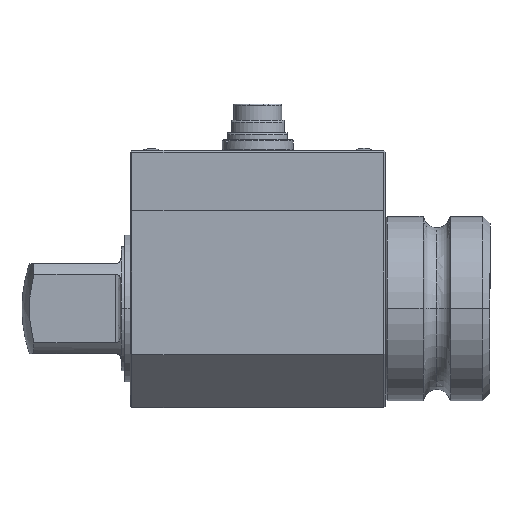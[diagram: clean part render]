
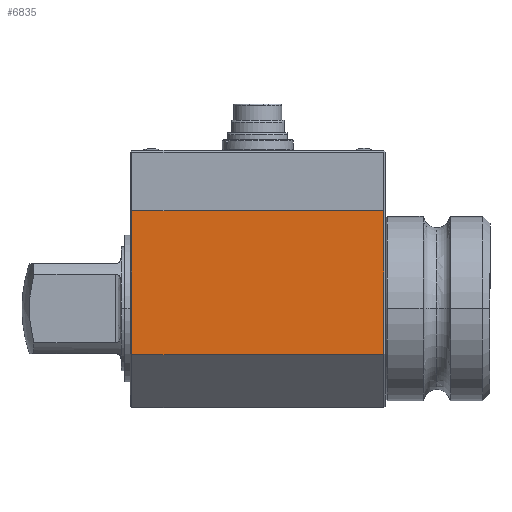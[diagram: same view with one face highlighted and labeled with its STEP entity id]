
A CAD part, top view. The second image highlights one B-rep face of the part: STEP entity #6835.
In plain terms, the highlighted planar face has unit normal (0, 0, 1).
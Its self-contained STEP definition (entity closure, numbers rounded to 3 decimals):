
#166 = AXIS2_PLACEMENT_3D ( 'NONE', #1244, #6911, #2129 ) ;
#439 = CARTESIAN_POINT ( 'NONE',  ( -72., 27.8, 28. ) ) ;
#450 = CARTESIAN_POINT ( 'NONE',  ( -0.5, 27.8, 28. ) ) ;
#700 = VECTOR ( 'NONE', #1001, 1000. ) ;
#790 = EDGE_CURVE ( 'NONE', #5037, #8164, #4116, .T. ) ;
#859 = CARTESIAN_POINT ( 'NONE',  ( -72., -12.8, 28. ) ) ;
#1001 = DIRECTION ( 'NONE',  ( 1., 0., 0. ) ) ;
#1244 = CARTESIAN_POINT ( 'NONE',  ( -72., 27.8, 28. ) ) ;
#1912 = DIRECTION ( 'NONE',  ( 1., 0., 0. ) ) ;
#2075 = PLANE ( 'NONE',  #166 ) ;
#2129 = DIRECTION ( 'NONE',  ( 0., -1., 0. ) ) ;
#2438 = VECTOR ( 'NONE', #9549, 1000. ) ;
#3366 = LINE ( 'NONE', #439, #6348 ) ;
#3401 = EDGE_LOOP ( 'NONE', ( #3695, #4055, #4302, #3450 ) ) ;
#3450 = ORIENTED_EDGE ( 'NONE', *, *, #4726, .T. ) ;
#3695 = ORIENTED_EDGE ( 'NONE', *, *, #7622, .F. ) ;
#4055 = ORIENTED_EDGE ( 'NONE', *, *, #790, .T. ) ;
#4116 = LINE ( 'NONE', #9346, #2438 ) ;
#4302 = ORIENTED_EDGE ( 'NONE', *, *, #4600, .T. ) ;
#4600 = EDGE_CURVE ( 'NONE', #8164, #6152, #6507, .T. ) ;
#4726 = EDGE_CURVE ( 'NONE', #6152, #8174, #8208, .T. ) ;
#4867 = CARTESIAN_POINT ( 'NONE',  ( -0.5, -12.8, 28. ) ) ;
#5037 = VERTEX_POINT ( 'NONE', #9521 ) ;
#5782 = FACE_OUTER_BOUND ( 'NONE', #3401, .T. ) ;
#6152 = VERTEX_POINT ( 'NONE', #4867 ) ;
#6348 = VECTOR ( 'NONE', #1912, 1000. ) ;
#6507 = LINE ( 'NONE', #859, #700 ) ;
#6835 = ADVANCED_FACE ( 'NONE', ( #5782 ), #2075, .T. ) ;
#6911 = DIRECTION ( 'NONE',  ( 0., 0., 1. ) ) ;
#7403 = CARTESIAN_POINT ( 'NONE',  ( -71.5, -12.8, 28. ) ) ;
#7622 = EDGE_CURVE ( 'NONE', #5037, #8174, #3366, .T. ) ;
#7826 = VECTOR ( 'NONE', #8240, 1000. ) ;
#8164 = VERTEX_POINT ( 'NONE', #7403 ) ;
#8174 = VERTEX_POINT ( 'NONE', #9053 ) ;
#8208 = LINE ( 'NONE', #450, #7826 ) ;
#8240 = DIRECTION ( 'NONE',  ( 0., 1., 0. ) ) ;
#9053 = CARTESIAN_POINT ( 'NONE',  ( -0.5, 27.8, 28. ) ) ;
#9346 = CARTESIAN_POINT ( 'NONE',  ( -71.5, -12.8, 28. ) ) ;
#9521 = CARTESIAN_POINT ( 'NONE',  ( -71.5, 27.8, 28. ) ) ;
#9549 = DIRECTION ( 'NONE',  ( 0., -1., 0. ) ) ;
